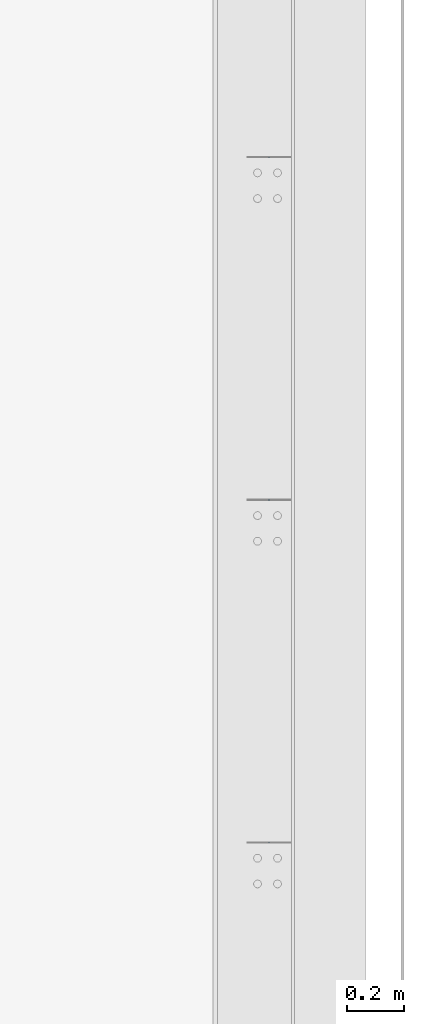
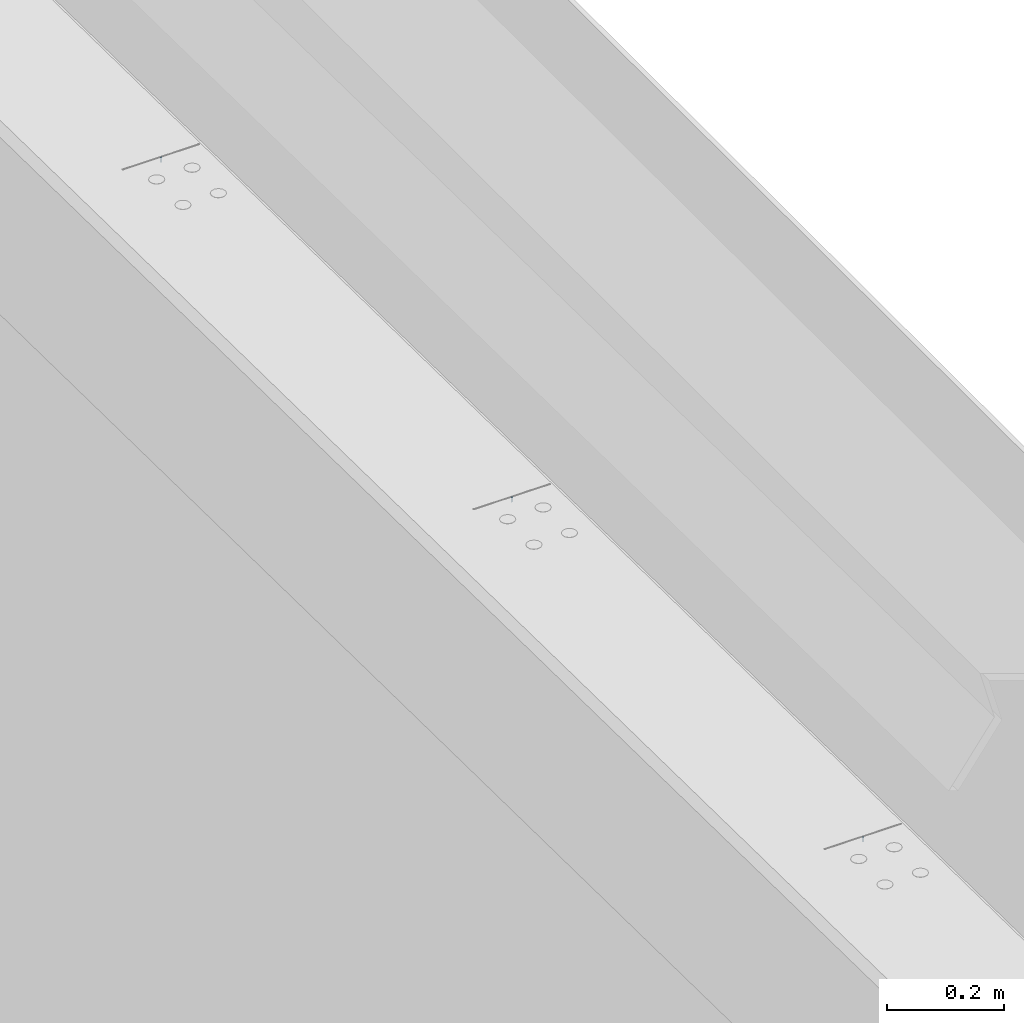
# One storey, part 82 of 186: 3 beams.
"""IFC4X3_ADD2 building model written with IfcOpenShell, lengths in millimetres."""

from ifc_helpers import new_model, si_unit, direction, frame, frame_2d, origin_with_axes, place, context, subcontext, project, spatial, rectangle, extrude, material, element, save


model = new_model("IFC4X3_ADD2")

# Units and contexts
model_context = context("Model", 3, precision=1e-05, world=origin_with_axes(), true_north=direction((0.0, 1.0)))
body_context = subcontext(model_context, "Body", "Model", "MODEL_VIEW")
ifc_project = project(units=[si_unit("LENGTHUNIT", "METRE", prefix="MILLI"), si_unit("AREAUNIT", "SQUARE_METRE"), si_unit("VOLUMEUNIT", "CUBIC_METRE"), si_unit("PLANEANGLEUNIT", "RADIAN"), si_unit("TIMEUNIT", "SECOND"), si_unit("MASSUNIT", "GRAM")], contexts=[model_context])

# Site, building, storey
site_placement = place(None, origin_with_axes())
site = spatial("IfcSite", under=ifc_project, at=site_placement, Name="Site", CompositionType="ELEMENT")
building_placement = place(site_placement, origin_with_axes())
building = spatial("IfcBuilding", under=site, at=building_placement, Name="IFC Building Story")
storey_placement = place(building_placement, frame((0.0, 0.0, 4370.0), z_axis=(0.0, 0.0, 1.0), x_axis=(1.0, 0.0, 0.0)))
storey = spatial("IfcBuildingStorey", under=building, at=storey_placement, Name="ETAGE 10 (1)", Elevation=4370.0)

# Beams
ifc_material = material(Name="STEEL/Accessory_invisible")
for number, where, z_axis, x_axis, name in (
    (1, (48412.192835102, -10069.0441743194, 3301.21822087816), (-1.0, 0.0, 0.0), (0.0, 0.01500926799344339, 0.9998873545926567), "ZW1"),
    (2, (48412.192835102, -11269.0449372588, 3319.869220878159), (-1.0, 0.0, 0.0), (0.0, 0.01500926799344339, 0.9998873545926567), "ZW1"),
    (3, (48412.192835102, -12469.0437928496, 3338.52122087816), (-1.0, 0.0, 0.0), (0.0, 0.01500926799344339, 0.9998873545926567), "ZW1"),
):
    element("IfcBeam", number, at=place(storey_placement, frame(where, z_axis=z_axis, x_axis=x_axis)), inside=storey, material=ifc_material, Name=name, ObjectType="1*1 12", context=body_context, shape_type="SweptSolid", body=[
        extrude(rectangle(XDim=10.0, YDim=1.00000000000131, at=frame_2d((0.0, 5.95523630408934e-12), x_axis=(1.0, 0.0))), origin_with_axes(), (0.0, 0.0, 1.0), 1.0),
    ])

save(model, "model.ifc")
